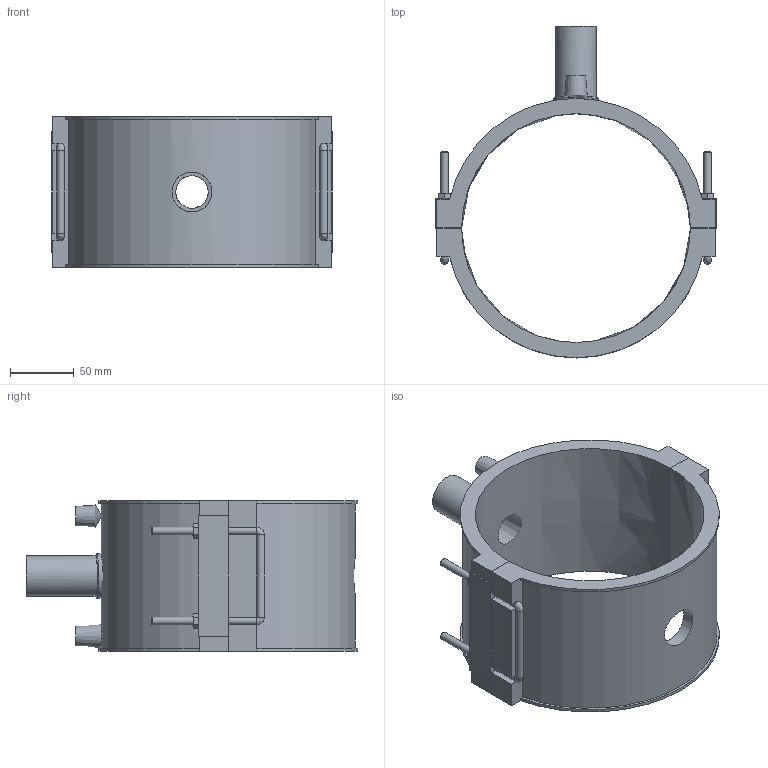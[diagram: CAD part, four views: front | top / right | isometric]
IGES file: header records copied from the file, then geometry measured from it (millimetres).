
Global section: file name: 495804180032.ipt; native system: Autodesk Inventor 2015; preprocessor: unknown; author: KIM; date: 20180426.120854; units: millimetre
Bounding box: 221 x 261 x 118 mm (x, y, z)
Volume: 844132.4 mm3; surface area: 194388.6 mm2
Topology: 2 solids, 2 shells, 133 faces, 340 edges, 214 vertices
Faces by surface type: plane 85, cylinder 22, revolution 10, bspline 9, cone 7
Full cylindrical faces by diameter (mm): 4 x2, 6 x10, 32 x1, 35.2 x1
